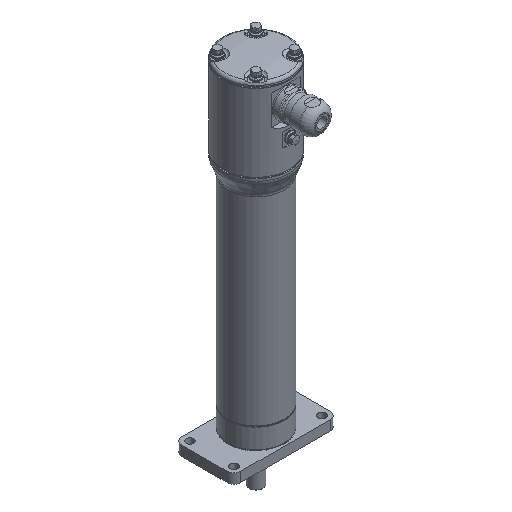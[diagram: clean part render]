
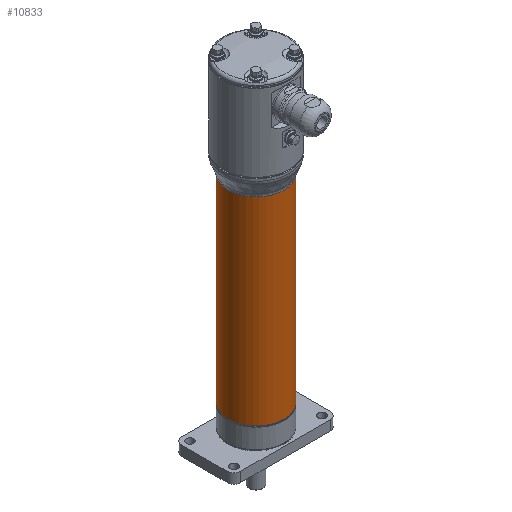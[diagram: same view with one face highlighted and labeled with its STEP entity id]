
A CAD part, isometric view. The second image highlights one B-rep face of the part: STEP entity #10833.
In plain terms, the highlighted cylindrical face has radius 32 mm (diameter 64 mm), a full revolution.
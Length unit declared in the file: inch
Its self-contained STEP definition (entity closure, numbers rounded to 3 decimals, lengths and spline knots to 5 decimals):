
#618 = AXIS2_PLACEMENT_3D ( 'NONE', #4105, #5012, #5135 ) ;
#802 = AXIS2_PLACEMENT_3D ( 'NONE', #1070, #12524, #3120 ) ;
#1070 = CARTESIAN_POINT ( 'NONE',  ( 0., 0., -9.86537 ) ) ;
#1492 = CIRCLE ( 'NONE', #618, 1.25984 ) ;
#2908 = DIRECTION ( 'NONE',  ( 0., 0., 1. ) ) ;
#3120 = DIRECTION ( 'NONE',  ( 1., 0., 0. ) ) ;
#3419 = CARTESIAN_POINT ( 'NONE',  ( 1.25984, 0., -0.99689 ) ) ;
#3857 = CYLINDRICAL_SURFACE ( 'NONE', #6933, 1.25984 ) ;
#3985 = FACE_OUTER_BOUND ( 'NONE', #9172, .T. ) ;
#4105 = CARTESIAN_POINT ( 'NONE',  ( 0., 0., -0.99689 ) ) ;
#5012 = DIRECTION ( 'NONE',  ( 0., 0., 1. ) ) ;
#5135 = DIRECTION ( 'NONE',  ( 1., 0., 0. ) ) ;
#5170 = ORIENTED_EDGE ( 'NONE', *, *, #10172, .F. ) ;
#5969 = FACE_OUTER_BOUND ( 'NONE', #8518, .T. ) ;
#6933 = AXIS2_PLACEMENT_3D ( 'NONE', #10920, #2908, #9973 ) ;
#7981 = CIRCLE ( 'NONE', #802, 1.25984 ) ;
#8518 = EDGE_LOOP ( 'NONE', ( #13370 ) ) ;
#8678 = EDGE_CURVE ( 'NONE', #10147, #10147, #7981, .T. ) ;
#9172 = EDGE_LOOP ( 'NONE', ( #5170 ) ) ;
#9973 = DIRECTION ( 'NONE',  ( 1., 0., 0. ) ) ;
#10147 = VERTEX_POINT ( 'NONE', #11411 ) ;
#10172 = EDGE_CURVE ( 'NONE', #11688, #11688, #1492, .T. ) ;
#10833 = ADVANCED_FACE ( 'NONE', ( #5969, #3985 ), #3857, .T. ) ;
#10920 = CARTESIAN_POINT ( 'NONE',  ( 0., 0., -9.27551 ) ) ;
#11411 = CARTESIAN_POINT ( 'NONE',  ( 1.25984, 0., -9.86537 ) ) ;
#11688 = VERTEX_POINT ( 'NONE', #3419 ) ;
#12524 = DIRECTION ( 'NONE',  ( 0., 0., 1. ) ) ;
#13370 = ORIENTED_EDGE ( 'NONE', *, *, #8678, .T. ) ;
